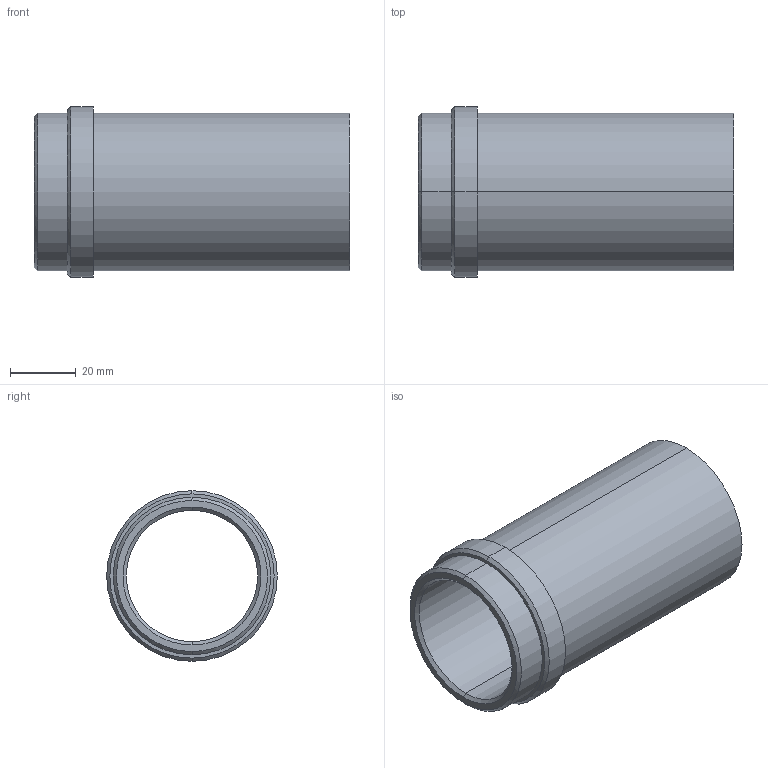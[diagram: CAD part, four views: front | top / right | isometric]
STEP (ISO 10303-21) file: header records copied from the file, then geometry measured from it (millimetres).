
FILE_DESCRIPTION(('CATIA V5 STEP Exchange'),'2;1');
FILE_NAME('C:\Users\Utente\Desktop\IO LAVORO\3D X SITO CF\X SITO\PLASTICA\358\358-40x96.stp','2021-04-09T14:53:41+00:00',('none'),('none'),'CATIA Version 5 Release 20 GA (IN-10)','CATIA V5 STEP AP203','none');
FILE_SCHEMA(('CONFIG_CONTROL_DESIGN'));
Length unit declared in the file: millimetre
Products named in the file (1): 358-40X96
Bounding box: 96 x 52 x 52 mm (x, y, z)
Volume: 55264.5 mm3; surface area: 28009.8 mm2
Topology: 1 solids, 1 shells, 20 faces, 64 edges, 48 vertices
Faces by surface type: cylinder 8, cone 6, plane 4, torus 2
Entity records: 906 total; most frequent: CARTESIAN_POINT 301, ORIENTED_EDGE 128, DIRECTION 92, EDGE_CURVE 64, AXIS2_PLACEMENT_3D 59, VERTEX_POINT 48, CIRCLE 38, EDGE_LOOP 24
